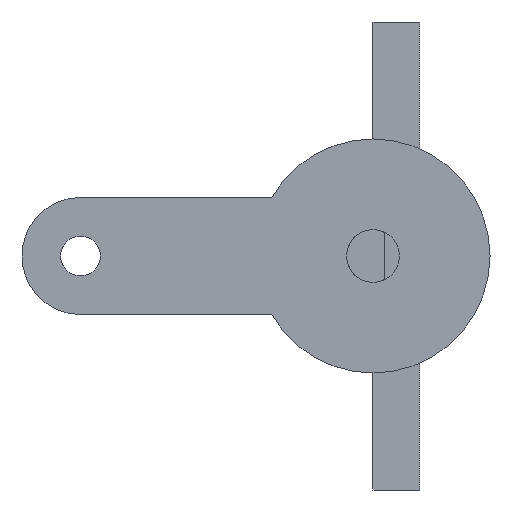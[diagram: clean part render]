
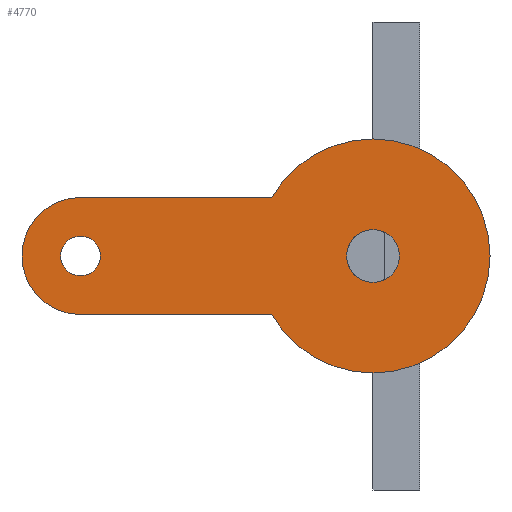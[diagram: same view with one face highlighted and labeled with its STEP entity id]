
A CAD part, front view. The second image highlights one B-rep face of the part: STEP entity #4770.
In plain terms, the highlighted planar face has unit normal (0, -1, 0).
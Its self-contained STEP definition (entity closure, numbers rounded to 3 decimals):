
#3921 = PLANE('',#3922);
#3922 = AXIS2_PLACEMENT_3D('',#3923,#3924,#3925);
#3923 = CARTESIAN_POINT('',(-25.,-46.,-5.));
#3924 = DIRECTION('',(0.,0.,1.));
#3925 = DIRECTION('',(1.,0.,0.));
#3950 = CYLINDRICAL_SURFACE('',#3951,10.);
#3951 = AXIS2_PLACEMENT_3D('',#3952,#3953,#3954);
#3952 = CARTESIAN_POINT('',(0.,-40.,0.));
#3953 = DIRECTION('',(-0.,1.,-0.));
#3954 = DIRECTION('',(1.,0.,0.));
#3978 = PLANE('',#3979);
#3979 = AXIS2_PLACEMENT_3D('',#3980,#3981,#3982);
#3980 = CARTESIAN_POINT('',(-25.,-46.,5.));
#3981 = DIRECTION('',(0.,0.,1.));
#3982 = DIRECTION('',(1.,0.,0.));
#4005 = CYLINDRICAL_SURFACE('',#4006,5.);
#4006 = AXIS2_PLACEMENT_3D('',#4007,#4008,#4009);
#4007 = CARTESIAN_POINT('',(-25.,-40.,0.));
#4008 = DIRECTION('',(-0.,1.,-0.));
#4009 = DIRECTION('',(1.,0.,0.));
#4700 = CYLINDRICAL_SURFACE('',#4701,2.25);
#4701 = AXIS2_PLACEMENT_3D('',#4702,#4703,#4704);
#4702 = CARTESIAN_POINT('',(0.,-39.,0.));
#4703 = DIRECTION('',(-0.,1.,-0.));
#4704 = DIRECTION('',(1.,0.,0.));
#4717 = VERTEX_POINT('',#4718);
#4718 = CARTESIAN_POINT('',(2.25,-46.,0.));
#4739 = EDGE_CURVE('',#4717,#4717,#4740,.T.);
#4740 = SURFACE_CURVE('',#4741,(#4746,#4753),.PCURVE_S1.);
#4741 = CIRCLE('',#4742,2.25);
#4742 = AXIS2_PLACEMENT_3D('',#4743,#4744,#4745);
#4743 = CARTESIAN_POINT('',(0.,-46.,0.));
#4744 = DIRECTION('',(-0.,1.,0.));
#4745 = DIRECTION('',(1.,0.,0.));
#4746 = PCURVE('',#4700,#4747);
#4747 = DEFINITIONAL_REPRESENTATION('',(#4748),#4752);
#4748 = LINE('',#4749,#4750);
#4749 = CARTESIAN_POINT('',(-6.283,-7.));
#4750 = VECTOR('',#4751,1.);
#4751 = DIRECTION('',(1.,-0.));
#4752 = ( GEOMETRIC_REPRESENTATION_CONTEXT(2) 
PARAMETRIC_REPRESENTATION_CONTEXT() REPRESENTATION_CONTEXT('2D SPACE',''
  ) );
#4753 = PCURVE('',#4754,#4759);
#4754 = PLANE('',#4755);
#4755 = AXIS2_PLACEMENT_3D('',#4756,#4757,#4758);
#4756 = CARTESIAN_POINT('',(0.,-46.,0.)
  );
#4757 = DIRECTION('',(-0.,-1.,-0.));
#4758 = DIRECTION('',(0.,0.,-1.));
#4759 = DEFINITIONAL_REPRESENTATION('',(#4760),#4768);
#4760 = ( BOUNDED_CURVE() B_SPLINE_CURVE(2,(#4761,#4762,#4763,#4764,
#4765,#4766,#4767),.UNSPECIFIED.,.T.,.F.) B_SPLINE_CURVE_WITH_KNOTS((1,2
    ,2,2,2,1),(-2.094,0.,2.094,4.189,
6.283,8.378),.UNSPECIFIED.) CURVE() 
GEOMETRIC_REPRESENTATION_ITEM() RATIONAL_B_SPLINE_CURVE((1.,0.5,1.,0.5,
1.,0.5,1.)) REPRESENTATION_ITEM('') );
#4761 = CARTESIAN_POINT('',(0.,2.25));
#4762 = CARTESIAN_POINT('',(3.897,2.25));
#4763 = CARTESIAN_POINT('',(1.949,-1.125));
#4764 = CARTESIAN_POINT('',(0.,-4.5));
#4765 = CARTESIAN_POINT('',(-1.949,-1.125));
#4766 = CARTESIAN_POINT('',(-3.897,2.25));
#4767 = CARTESIAN_POINT('',(0.,2.25));
#4768 = ( GEOMETRIC_REPRESENTATION_CONTEXT(2) 
PARAMETRIC_REPRESENTATION_CONTEXT() REPRESENTATION_CONTEXT('2D SPACE',''
  ) );
#4770 = ADVANCED_FACE('',(#4771,#4871,#4906),#4754,.T.);
#4771 = FACE_BOUND('',#4772,.T.);
#4772 = EDGE_LOOP('',(#4773,#4803,#4826,#4850));
#4773 = ORIENTED_EDGE('',*,*,#4774,.F.);
#4774 = EDGE_CURVE('',#4775,#4777,#4779,.T.);
#4775 = VERTEX_POINT('',#4776);
#4776 = CARTESIAN_POINT('',(-8.66,-46.,5.));
#4777 = VERTEX_POINT('',#4778);
#4778 = CARTESIAN_POINT('',(-8.66,-46.,-5.));
#4779 = SURFACE_CURVE('',#4780,(#4785,#4796),.PCURVE_S1.);
#4780 = CIRCLE('',#4781,10.);
#4781 = AXIS2_PLACEMENT_3D('',#4782,#4783,#4784);
#4782 = CARTESIAN_POINT('',(0.,-46.,0.));
#4783 = DIRECTION('',(0.,1.,-0.));
#4784 = DIRECTION('',(-0.866,0.,0.5));
#4785 = PCURVE('',#4754,#4786);
#4786 = DEFINITIONAL_REPRESENTATION('',(#4787),#4795);
#4787 = ( BOUNDED_CURVE() B_SPLINE_CURVE(2,(#4788,#4789,#4790,#4791,
#4792,#4793,#4794),.UNSPECIFIED.,.T.,.F.) B_SPLINE_CURVE_WITH_KNOTS((1,2
    ,2,2,2,1),(-2.094,0.,2.094,4.189,
6.283,8.378),.UNSPECIFIED.) CURVE() 
GEOMETRIC_REPRESENTATION_ITEM() RATIONAL_B_SPLINE_CURVE((1.,0.5,1.,0.5,
1.,0.5,1.)) REPRESENTATION_ITEM('') );
#4788 = CARTESIAN_POINT('',(-5.,-8.66));
#4789 = CARTESIAN_POINT('',(-20.,0.));
#4790 = CARTESIAN_POINT('',(-5.,8.66));
#4791 = CARTESIAN_POINT('',(10.,17.321));
#4792 = CARTESIAN_POINT('',(10.,0.));
#4793 = CARTESIAN_POINT('',(10.,-17.321));
#4794 = CARTESIAN_POINT('',(-5.,-8.66));
#4795 = ( GEOMETRIC_REPRESENTATION_CONTEXT(2) 
PARAMETRIC_REPRESENTATION_CONTEXT() REPRESENTATION_CONTEXT('2D SPACE',''
  ) );
#4796 = PCURVE('',#3950,#4797);
#4797 = DEFINITIONAL_REPRESENTATION('',(#4798),#4802);
#4798 = LINE('',#4799,#4800);
#4799 = CARTESIAN_POINT('',(-8.901,-6.));
#4800 = VECTOR('',#4801,1.);
#4801 = DIRECTION('',(1.,-0.));
#4802 = ( GEOMETRIC_REPRESENTATION_CONTEXT(2) 
PARAMETRIC_REPRESENTATION_CONTEXT() REPRESENTATION_CONTEXT('2D SPACE',''
  ) );
#4803 = ORIENTED_EDGE('',*,*,#4804,.F.);
#4804 = EDGE_CURVE('',#4805,#4775,#4807,.T.);
#4805 = VERTEX_POINT('',#4806);
#4806 = CARTESIAN_POINT('',(-25.,-46.,5.));
#4807 = SURFACE_CURVE('',#4808,(#4812,#4819),.PCURVE_S1.);
#4808 = LINE('',#4809,#4810);
#4809 = CARTESIAN_POINT('',(-25.,-46.,5.));
#4810 = VECTOR('',#4811,1.);
#4811 = DIRECTION('',(1.,0.,0.));
#4812 = PCURVE('',#4754,#4813);
#4813 = DEFINITIONAL_REPRESENTATION('',(#4814),#4818);
#4814 = LINE('',#4815,#4816);
#4815 = CARTESIAN_POINT('',(-5.,-25.));
#4816 = VECTOR('',#4817,1.);
#4817 = DIRECTION('',(0.,1.));
#4818 = ( GEOMETRIC_REPRESENTATION_CONTEXT(2) 
PARAMETRIC_REPRESENTATION_CONTEXT() REPRESENTATION_CONTEXT('2D SPACE',''
  ) );
#4819 = PCURVE('',#3978,#4820);
#4820 = DEFINITIONAL_REPRESENTATION('',(#4821),#4825);
#4821 = LINE('',#4822,#4823);
#4822 = CARTESIAN_POINT('',(0.,0.));
#4823 = VECTOR('',#4824,1.);
#4824 = DIRECTION('',(1.,0.));
#4825 = ( GEOMETRIC_REPRESENTATION_CONTEXT(2) 
PARAMETRIC_REPRESENTATION_CONTEXT() REPRESENTATION_CONTEXT('2D SPACE',''
  ) );
#4826 = ORIENTED_EDGE('',*,*,#4827,.T.);
#4827 = EDGE_CURVE('',#4805,#4828,#4830,.T.);
#4828 = VERTEX_POINT('',#4829);
#4829 = CARTESIAN_POINT('',(-25.,-46.,-5.));
#4830 = SURFACE_CURVE('',#4831,(#4836,#4843),.PCURVE_S1.);
#4831 = CIRCLE('',#4832,5.);
#4832 = AXIS2_PLACEMENT_3D('',#4833,#4834,#4835);
#4833 = CARTESIAN_POINT('',(-25.,-46.,0.));
#4834 = DIRECTION('',(0.,-1.,0.));
#4835 = DIRECTION('',(1.,0.,0.));
#4836 = PCURVE('',#4754,#4837);
#4837 = DEFINITIONAL_REPRESENTATION('',(#4838),#4842);
#4838 = CIRCLE('',#4839,5.);
#4839 = AXIS2_PLACEMENT_2D('',#4840,#4841);
#4840 = CARTESIAN_POINT('',(0.,-25.));
#4841 = DIRECTION('',(0.,1.));
#4842 = ( GEOMETRIC_REPRESENTATION_CONTEXT(2) 
PARAMETRIC_REPRESENTATION_CONTEXT() REPRESENTATION_CONTEXT('2D SPACE',''
  ) );
#4843 = PCURVE('',#4005,#4844);
#4844 = DEFINITIONAL_REPRESENTATION('',(#4845),#4849);
#4845 = LINE('',#4846,#4847);
#4846 = CARTESIAN_POINT('',(-0.,-6.));
#4847 = VECTOR('',#4848,1.);
#4848 = DIRECTION('',(-1.,0.));
#4849 = ( GEOMETRIC_REPRESENTATION_CONTEXT(2) 
PARAMETRIC_REPRESENTATION_CONTEXT() REPRESENTATION_CONTEXT('2D SPACE',''
  ) );
#4850 = ORIENTED_EDGE('',*,*,#4851,.T.);
#4851 = EDGE_CURVE('',#4828,#4777,#4852,.T.);
#4852 = SURFACE_CURVE('',#4853,(#4857,#4864),.PCURVE_S1.);
#4853 = LINE('',#4854,#4855);
#4854 = CARTESIAN_POINT('',(-25.,-46.,-5.));
#4855 = VECTOR('',#4856,1.);
#4856 = DIRECTION('',(1.,0.,0.));
#4857 = PCURVE('',#4754,#4858);
#4858 = DEFINITIONAL_REPRESENTATION('',(#4859),#4863);
#4859 = LINE('',#4860,#4861);
#4860 = CARTESIAN_POINT('',(5.,-25.));
#4861 = VECTOR('',#4862,1.);
#4862 = DIRECTION('',(0.,1.));
#4863 = ( GEOMETRIC_REPRESENTATION_CONTEXT(2) 
PARAMETRIC_REPRESENTATION_CONTEXT() REPRESENTATION_CONTEXT('2D SPACE',''
  ) );
#4864 = PCURVE('',#3921,#4865);
#4865 = DEFINITIONAL_REPRESENTATION('',(#4866),#4870);
#4866 = LINE('',#4867,#4868);
#4867 = CARTESIAN_POINT('',(0.,0.));
#4868 = VECTOR('',#4869,1.);
#4869 = DIRECTION('',(1.,0.));
#4870 = ( GEOMETRIC_REPRESENTATION_CONTEXT(2) 
PARAMETRIC_REPRESENTATION_CONTEXT() REPRESENTATION_CONTEXT('2D SPACE',''
  ) );
#4871 = FACE_BOUND('',#4872,.T.);
#4872 = EDGE_LOOP('',(#4873));
#4873 = ORIENTED_EDGE('',*,*,#4874,.T.);
#4874 = EDGE_CURVE('',#4875,#4875,#4877,.T.);
#4875 = VERTEX_POINT('',#4876);
#4876 = CARTESIAN_POINT('',(-23.3,-46.,0.));
#4877 = SURFACE_CURVE('',#4878,(#4883,#4894),.PCURVE_S1.);
#4878 = CIRCLE('',#4879,1.7);
#4879 = AXIS2_PLACEMENT_3D('',#4880,#4881,#4882);
#4880 = CARTESIAN_POINT('',(-25.,-46.,0.));
#4881 = DIRECTION('',(-0.,1.,0.));
#4882 = DIRECTION('',(1.,0.,0.));
#4883 = PCURVE('',#4754,#4884);
#4884 = DEFINITIONAL_REPRESENTATION('',(#4885),#4893);
#4885 = ( BOUNDED_CURVE() B_SPLINE_CURVE(2,(#4886,#4887,#4888,#4889,
#4890,#4891,#4892),.UNSPECIFIED.,.T.,.F.) B_SPLINE_CURVE_WITH_KNOTS((1,2
    ,2,2,2,1),(-2.094,0.,2.094,4.189,
6.283,8.378),.UNSPECIFIED.) CURVE() 
GEOMETRIC_REPRESENTATION_ITEM() RATIONAL_B_SPLINE_CURVE((1.,0.5,1.,0.5,
1.,0.5,1.)) REPRESENTATION_ITEM('') );
#4886 = CARTESIAN_POINT('',(0.,-23.3));
#4887 = CARTESIAN_POINT('',(2.944,-23.3));
#4888 = CARTESIAN_POINT('',(1.472,-25.85));
#4889 = CARTESIAN_POINT('',(0.,-28.4));
#4890 = CARTESIAN_POINT('',(-1.472,-25.85));
#4891 = CARTESIAN_POINT('',(-2.944,-23.3));
#4892 = CARTESIAN_POINT('',(0.,-23.3));
#4893 = ( GEOMETRIC_REPRESENTATION_CONTEXT(2) 
PARAMETRIC_REPRESENTATION_CONTEXT() REPRESENTATION_CONTEXT('2D SPACE',''
  ) );
#4894 = PCURVE('',#4895,#4900);
#4895 = CYLINDRICAL_SURFACE('',#4896,1.7);
#4896 = AXIS2_PLACEMENT_3D('',#4897,#4898,#4899);
#4897 = CARTESIAN_POINT('',(-25.,-39.,0.));
#4898 = DIRECTION('',(-0.,1.,-0.));
#4899 = DIRECTION('',(1.,0.,0.));
#4900 = DEFINITIONAL_REPRESENTATION('',(#4901),#4905);
#4901 = LINE('',#4902,#4903);
#4902 = CARTESIAN_POINT('',(-6.283,-7.));
#4903 = VECTOR('',#4904,1.);
#4904 = DIRECTION('',(1.,-0.));
#4905 = ( GEOMETRIC_REPRESENTATION_CONTEXT(2) 
PARAMETRIC_REPRESENTATION_CONTEXT() REPRESENTATION_CONTEXT('2D SPACE',''
  ) );
#4906 = FACE_BOUND('',#4907,.T.);
#4907 = EDGE_LOOP('',(#4908));
#4908 = ORIENTED_EDGE('',*,*,#4739,.T.);
